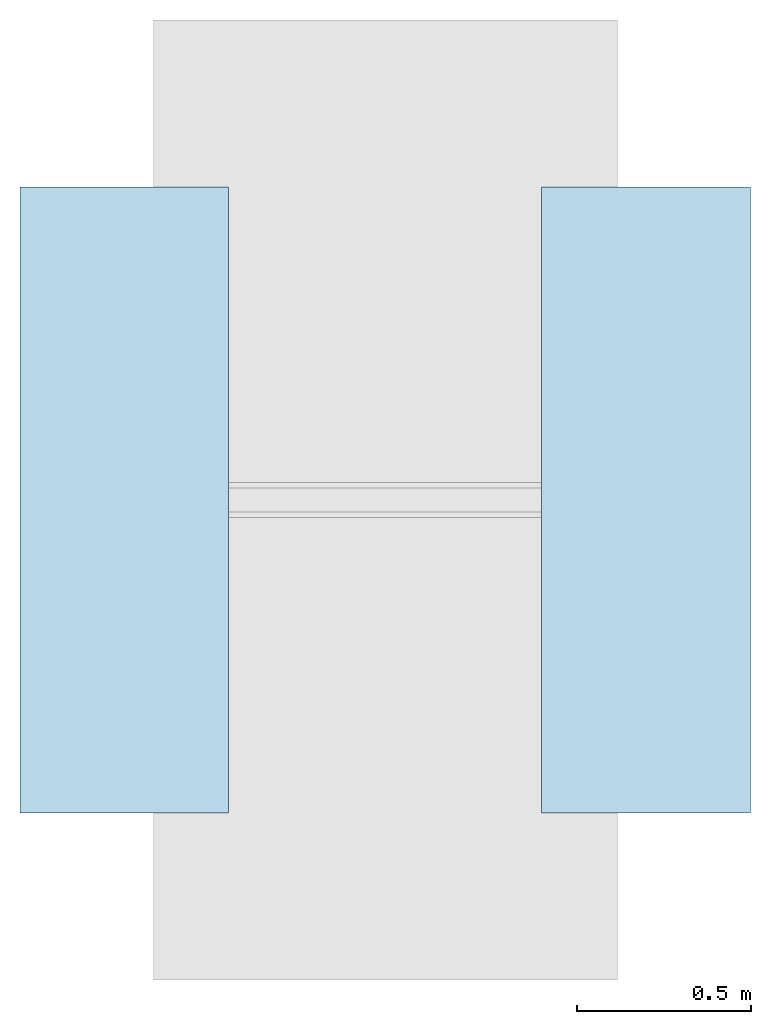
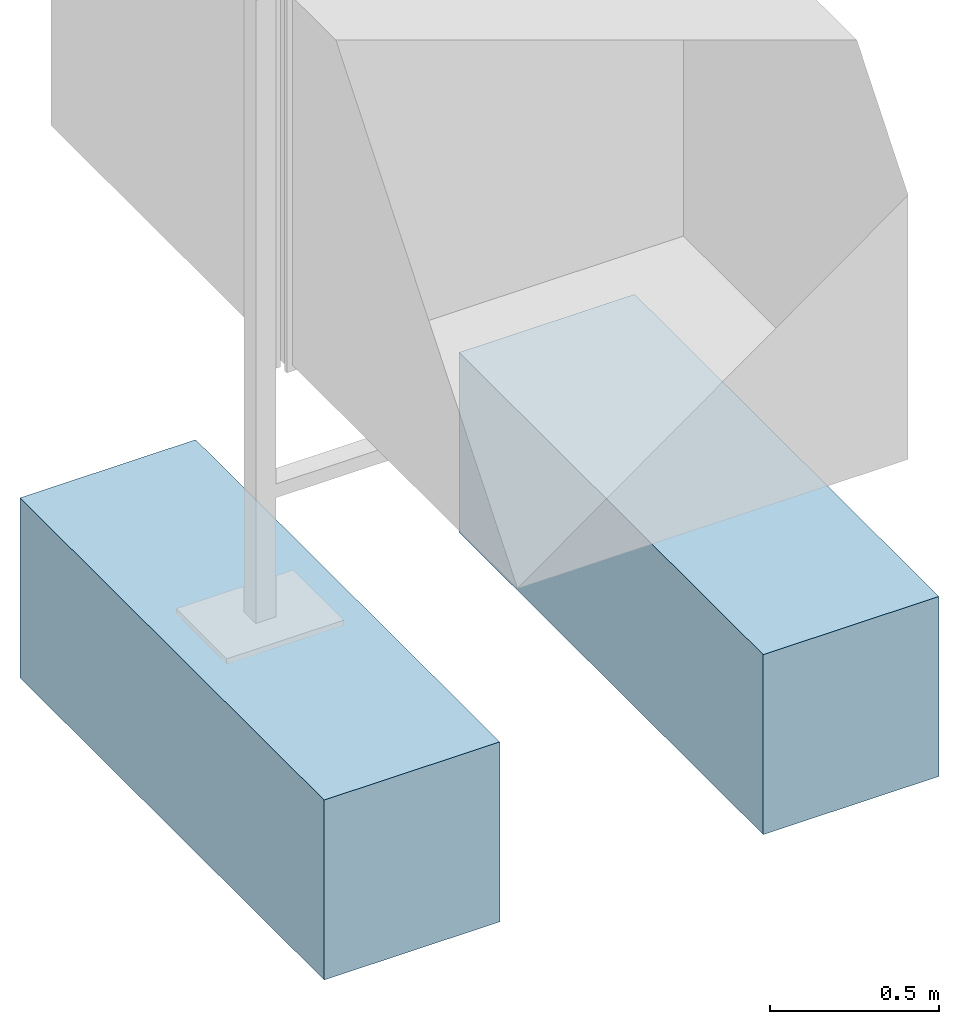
# One storey, incomplete: 2 slabs.
"""IFC4 building model written with IfcOpenShell, lengths in metres."""

from ifc_helpers import new_model, entity, si_unit, converted_unit, direction, frame, frame_2d, origin, origin_2d_with_axis, place, context, subcontext, project, spatial, rectangle, extrude, material, type_object, element, save


model = new_model("IFC4")

# Units and contexts
model_context = context("Model", 3, precision=1e-05, world=origin(), true_north=direction((6.123031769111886e-17, 1.0)))
body_context = subcontext(model_context, "Body", "Model", "MODEL_VIEW")
ifc_project = project(units=[si_unit("LENGTHUNIT", "METRE"), converted_unit("PLANEANGLEUNIT", "DEGREE", entity("IfcPlaneAngleMeasure", 0.017453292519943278), si_unit("PLANEANGLEUNIT", "RADIAN"), dimensions=[0, 0, 0, 0, 0, 0, 0]), si_unit("AREAUNIT", "SQUARE_METRE")], contexts=[model_context])

# Site, building, storey
site_placement = place(None, origin())
site = spatial("IfcSite", under=ifc_project, at=site_placement, Name="Default", CompositionType="ELEMENT")
building_placement = place(site_placement, origin())
building = spatial("IfcBuilding", under=site, at=building_placement, CompositionType="ELEMENT")
storey_placement = place(building_placement, origin())
storey = spatial("IfcBuildingStorey", under=building, at=storey_placement, Name="DB_Bezugshoehe_max_Bahnsteigkante", CompositionType="ELEMENT", Elevation=0.0)

# Slabs
ifc_material = material(Name="DB_Ortbeton", Category="DB_Beton")
slab_type = type_object("IfcSlabType", Name="DB_Vitrine_Fundament:DB_Vitrine_Fundament", PredefinedType="BASESLAB", material=ifc_material)
slab_1_placement = place(storey_placement, origin())
element("IfcSlab", 1, at=slab_1_placement, inside=storey, type_object=slab_type, Name="DB_Vitrine_Fundament:DB_Vitrine_Fundament", ObjectType="DB_Vitrine_Fundament:DB_Vitrine_Fundament", PredefinedType="BASESLAB", context=body_context, shape_type="SweptSolid", body=[
    extrude(rectangle(XDim=1.8, YDim=0.5999999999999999, at=origin_2d_with_axis()), frame((-0.0006257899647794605, 0.0, 0.04999999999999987), z_axis=(0.0, 0.0, 1.0), x_axis=(0.0, 1.0, 0.0)), (0.0, 0.0, 1.0), 0.5999999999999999),
    extrude(rectangle(XDim=0.5999999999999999, YDim=1.7999999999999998, at=origin_2d_with_axis()), frame((-0.0006257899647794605, 0.0, 0.0), z_axis=(0.0, 0.0, 1.0), x_axis=(-1.0, 0.0, 0.0)), (0.0, 0.0, 1.0), 0.04999999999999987),
])
slab_2_placement = place(storey_placement, origin())
element("IfcSlab", 2, at=slab_2_placement, inside=storey, type_object=slab_type, Name="DB_Vitrine_Fundament:DB_Vitrine_Fundament", ObjectType="DB_Vitrine_Fundament:DB_Vitrine_Fundament", PredefinedType="BASESLAB", context=body_context, shape_type="SweptSolid", body=[
    extrude(rectangle(XDim=1.8, YDim=0.5999999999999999, at=frame_2d((0.0, -8.326672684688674e-17), x_axis=(1.0, 0.0))), frame((1.4993742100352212, 0.0, 0.04999999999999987), z_axis=(0.0, 0.0, 1.0), x_axis=(0.0, 1.0, 0.0)), (0.0, 0.0, 1.0), 0.5999999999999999),
    extrude(rectangle(XDim=0.6000000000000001, YDim=1.7999999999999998, at=origin_2d_with_axis()), frame((1.4993742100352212, 0.0, 0.0), z_axis=(0.0, 0.0, 1.0), x_axis=(-1.0, 0.0, 0.0)), (0.0, 0.0, 1.0), 0.04999999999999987),
])

save(model, "model.ifc")
